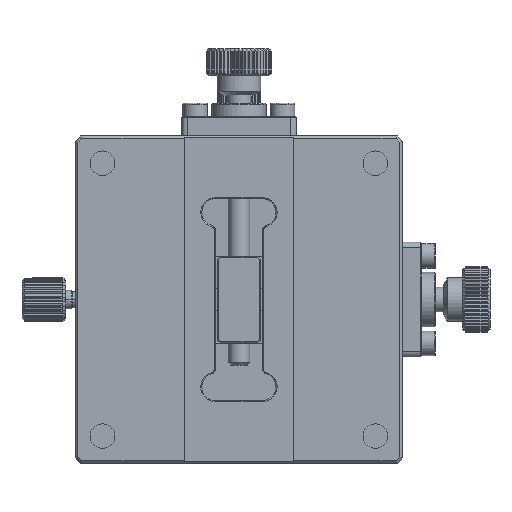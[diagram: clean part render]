
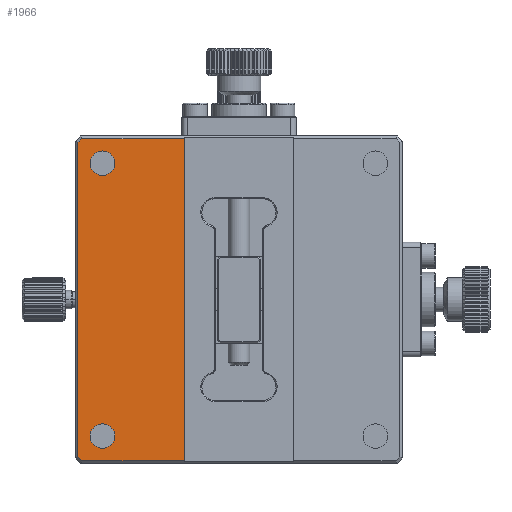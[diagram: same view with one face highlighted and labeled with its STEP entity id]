
A CAD part, front view. The second image highlights one B-rep face of the part: STEP entity #1966.
In plain terms, the highlighted planar face has unit normal (0, -1, 0).
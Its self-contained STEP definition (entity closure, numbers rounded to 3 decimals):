
#285=CARTESIAN_POINT('',(-25.,-5.9,-25.));
#286=DIRECTION('',(0.,1.,0.));
#287=DIRECTION('',(1.,0.,0.));
#288=AXIS2_PLACEMENT_3D('',#285,#286,#287);
#290=CARTESIAN_POINT('',(-25.,-5.9,-25.));
#291=DIRECTION('',(0.,1.,0.));
#292=DIRECTION('',(-1.,0.,0.));
#293=AXIS2_PLACEMENT_3D('',#290,#291,#292);
#305=CARTESIAN_POINT('',(-25.,-5.9,25.));
#306=DIRECTION('',(0.,1.,0.));
#307=DIRECTION('',(1.,0.,0.));
#308=AXIS2_PLACEMENT_3D('',#305,#306,#307);
#310=CARTESIAN_POINT('',(-25.,-5.9,25.));
#311=DIRECTION('',(0.,1.,0.));
#312=DIRECTION('',(-1.,0.,0.));
#313=AXIS2_PLACEMENT_3D('',#310,#311,#312);
#325=DIRECTION('',(0.,0.,1.));
#326=VECTOR('',#325,59.);
#327=CARTESIAN_POINT('',(-10.,-5.9,-29.5));
#328=LINE('',#327,#326);
#329=DIRECTION('',(1.,0.,0.));
#330=VECTOR('',#329,18.793);
#331=CARTESIAN_POINT('',(-28.793,-5.9,-29.5));
#332=LINE('',#331,#330);
#333=DIRECTION('',(0.707,0.,-0.707));
#334=VECTOR('',#333,1.);
#335=CARTESIAN_POINT('',(-29.5,-5.9,-28.793));
#336=LINE('',#335,#334);
#337=DIRECTION('',(0.,0.,-1.));
#338=VECTOR('',#337,57.586);
#339=CARTESIAN_POINT('',(-29.5,-5.9,28.793));
#340=LINE('',#339,#338);
#341=DIRECTION('',(-0.707,0.,-0.707));
#342=VECTOR('',#341,1.);
#343=CARTESIAN_POINT('',(-28.793,-5.9,29.5));
#344=LINE('',#343,#342);
#345=DIRECTION('',(-1.,0.,0.));
#346=VECTOR('',#345,18.793);
#347=CARTESIAN_POINT('',(-10.,-5.9,29.5));
#348=LINE('',#347,#346);
#1297=CARTESIAN_POINT('',(-29.5,-5.9,-28.793));
#1298=CARTESIAN_POINT('',(-28.793,-5.9,-29.5));
#1299=VERTEX_POINT('',#1297);
#1300=VERTEX_POINT('',#1298);
#1325=CARTESIAN_POINT('',(-28.793,-5.9,29.5));
#1326=CARTESIAN_POINT('',(-29.5,-5.9,28.793));
#1327=VERTEX_POINT('',#1325);
#1328=VERTEX_POINT('',#1326);
#1473=CARTESIAN_POINT('',(-22.75,-5.9,-25.));
#1474=CARTESIAN_POINT('',(-27.25,-5.9,-25.));
#1475=VERTEX_POINT('',#1473);
#1476=VERTEX_POINT('',#1474);
#1481=CARTESIAN_POINT('',(-22.75,-5.9,25.));
#1482=CARTESIAN_POINT('',(-27.25,-5.9,25.));
#1483=VERTEX_POINT('',#1481);
#1484=VERTEX_POINT('',#1482);
#1553=CARTESIAN_POINT('',(-10.,-5.9,-29.5));
#1554=CARTESIAN_POINT('',(-10.,-5.9,29.5));
#1555=VERTEX_POINT('',#1553);
#1556=VERTEX_POINT('',#1554);
#1935=CARTESIAN_POINT('',(0.,-5.9,0.));
#1936=DIRECTION('',(0.,1.,0.));
#1937=DIRECTION('',(1.,0.,0.));
#1938=AXIS2_PLACEMENT_3D('',#1935,#1936,#1937);
#1939=PLANE('',#1938);
#1941=ORIENTED_EDGE('',*,*,#1940,.F.);
#1943=ORIENTED_EDGE('',*,*,#1942,.F.);
#1945=ORIENTED_EDGE('',*,*,#1944,.F.);
#1947=ORIENTED_EDGE('',*,*,#1946,.F.);
#1949=ORIENTED_EDGE('',*,*,#1948,.F.);
#1951=ORIENTED_EDGE('',*,*,#1950,.F.);
#1952=EDGE_LOOP('',(#1941,#1943,#1945,#1947,#1949,#1951));
#1953=FACE_OUTER_BOUND('',#1952,.F.);
#1955=ORIENTED_EDGE('',*,*,#1954,.F.);
#1957=ORIENTED_EDGE('',*,*,#1956,.F.);
#1958=EDGE_LOOP('',(#1955,#1957));
#1959=FACE_BOUND('',#1958,.F.);
#1961=ORIENTED_EDGE('',*,*,#1960,.F.);
#1963=ORIENTED_EDGE('',*,*,#1962,.F.);
#1964=EDGE_LOOP('',(#1961,#1963));
#1965=FACE_BOUND('',#1964,.F.);
#1966=ADVANCED_FACE('',(#1953,#1959,#1965),#1939,.F.);
#289=CIRCLE('',#288,2.25);
#294=CIRCLE('',#293,2.25);
#309=CIRCLE('',#308,2.25);
#314=CIRCLE('',#313,2.25);
#1940=EDGE_CURVE('',#1555,#1556,#328,.T.);
#1942=EDGE_CURVE('',#1300,#1555,#332,.T.);
#1944=EDGE_CURVE('',#1299,#1300,#336,.T.);
#1946=EDGE_CURVE('',#1328,#1299,#340,.T.);
#1948=EDGE_CURVE('',#1327,#1328,#344,.T.);
#1950=EDGE_CURVE('',#1556,#1327,#348,.T.);
#1954=EDGE_CURVE('',#1475,#1476,#289,.T.);
#1956=EDGE_CURVE('',#1476,#1475,#294,.T.);
#1960=EDGE_CURVE('',#1483,#1484,#309,.T.);
#1962=EDGE_CURVE('',#1484,#1483,#314,.T.);
